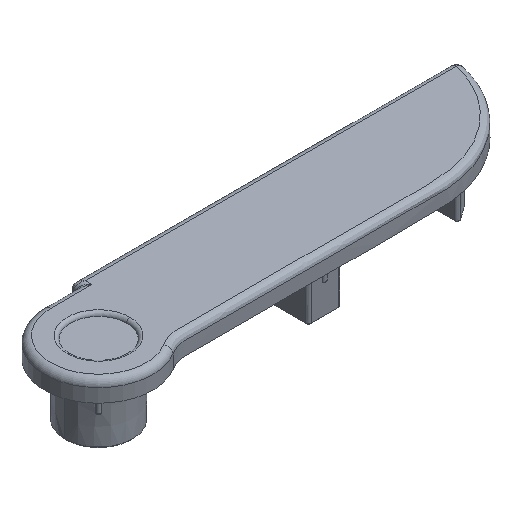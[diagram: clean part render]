
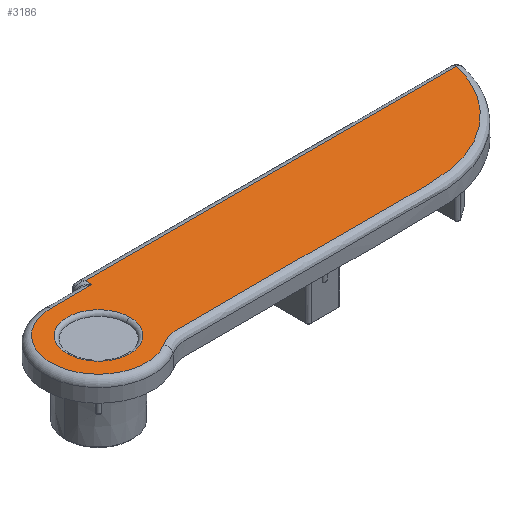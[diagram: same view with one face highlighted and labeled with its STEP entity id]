
A CAD part, isometric view. The second image highlights one B-rep face of the part: STEP entity #3186.
In plain terms, the highlighted planar face has unit normal (0, 0, 1).
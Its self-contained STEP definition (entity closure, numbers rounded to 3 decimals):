
#64 = DIRECTION ( 'NONE',  ( 1., 0., 0. ) ) ;
#92 = CARTESIAN_POINT ( 'NONE',  ( 97.811, 3.091, 0. ) ) ;
#164 = CARTESIAN_POINT ( 'NONE',  ( 99.793, 8.006, 0. ) ) ;
#170 = CARTESIAN_POINT ( 'NONE',  ( 42.63, -5.993, 0. ) ) ;
#199 = CARTESIAN_POINT ( 'NONE',  ( 92.243, -2.447, 0. ) ) ;
#221 = CARTESIAN_POINT ( 'NONE',  ( 39.021, 0.006, 0. ) ) ;
#247 = VERTEX_POINT ( 'NONE', #2734 ) ;
#518 = CARTESIAN_POINT ( 'NONE',  ( 45.049, -5.028, 0. ) ) ;
#530 = CARTESIAN_POINT ( 'NONE',  ( 95.096, -0.217, 0. ) ) ;
#534 = EDGE_CURVE ( 'NONE', #3525, #4199, #4288, .T. ) ;
#679 = CIRCLE ( 'NONE', #1086, 4.642 ) ;
#728 = CARTESIAN_POINT ( 'NONE',  ( 60.944, -4.999, 0. ) ) ;
#730 = CARTESIAN_POINT ( 'NONE',  ( 39.021, 7.006, 0. ) ) ;
#732 = AXIS2_PLACEMENT_3D ( 'NONE', #3532, #1928, #4246 ) ;
#745 = CARTESIAN_POINT ( 'NONE',  ( 42.63, -5.993, 0. ) ) ;
#763 = CARTESIAN_POINT ( 'NONE',  ( 90.193, -3.527, 0. ) ) ;
#820 = CARTESIAN_POINT ( 'NONE',  ( 97.082, 1.997, 0. ) ) ;
#832 = CARTESIAN_POINT ( 'NONE',  ( 80.813, -5.019, 0. ) ) ;
#900 = EDGE_LOOP ( 'NONE', ( #1479, #4083 ) ) ;
#1045 = EDGE_LOOP ( 'NONE', ( #4342, #2130, #2809, #2443, #3438 ) ) ;
#1054 = CARTESIAN_POINT ( 'NONE',  ( 52.996, -5.013, 0. ) ) ;
#1065 = VERTEX_POINT ( 'NONE', #3598 ) ;
#1070 = DIRECTION ( 'NONE',  ( 0., 0., -1. ) ) ;
#1071 = CARTESIAN_POINT ( 'NONE',  ( 47.698, -4.993, 0. ) ) ;
#1081 = CARTESIAN_POINT ( 'NONE',  ( 94.366, -0.894, 0. ) ) ;
#1086 = AXIS2_PLACEMENT_3D ( 'NONE', #221, #1874, #1520 ) ;
#1090 = VERTEX_POINT ( 'NONE', #1296 ) ;
#1159 = CARTESIAN_POINT ( 'NONE',  ( 95.793, 0.496, 0. ) ) ;
#1174 = CARTESIAN_POINT ( 'NONE',  ( 84.785, -4.909, 0. ) ) ;
#1189 = EDGE_CURVE ( 'NONE', #247, #1090, #2269, .T. ) ;
#1202 = LINE ( 'NONE', #3825, #2423 ) ;
#1296 = CARTESIAN_POINT ( 'NONE',  ( 39.021, 7.006, 0. ) ) ;
#1319 = VECTOR ( 'NONE', #3041, 1000. ) ;
#1397 = CARTESIAN_POINT ( 'NONE',  ( 44.083, -5.249, 0. ) ) ;
#1411 = CARTESIAN_POINT ( 'NONE',  ( 68.891, -4.996, 0. ) ) ;
#1429 = CARTESIAN_POINT ( 'NONE',  ( 45.711, -4.987, 0. ) ) ;
#1442 = AXIS2_PLACEMENT_3D ( 'NONE', #1677, #1070, #64 ) ;
#1479 = ORIENTED_EDGE ( 'NONE', *, *, #3728, .T. ) ;
#1501 = CARTESIAN_POINT ( 'NONE',  ( 71.541, -5.004, 0. ) ) ;
#1513 = CARTESIAN_POINT ( 'NONE',  ( 87.401, -4.52, 0. ) ) ;
#1520 = DIRECTION ( 'NONE',  ( 1., 0., 0. ) ) ;
#1549 = PLANE ( 'NONE',  #732 ) ;
#1590 = EDGE_CURVE ( 'NONE', #1090, #3317, #2638, .T. ) ;
#1677 = CARTESIAN_POINT ( 'NONE',  ( 39.021, 0.006, 0. ) ) ;
#1680 = FACE_BOUND ( 'NONE', #900, .T. ) ;
#1743 = CARTESIAN_POINT ( 'NONE',  ( 42.912, -5.823, 0. ) ) ;
#1759 = CARTESIAN_POINT ( 'NONE',  ( 82.799, -5.01, 0. ) ) ;
#1768 = CARTESIAN_POINT ( 'NONE',  ( 43.663, 0.006, 0. ) ) ;
#1769 = DIRECTION ( 'NONE',  ( 1., 0., 0. ) ) ;
#1772 = CARTESIAN_POINT ( 'NONE',  ( 88.667, -4.171, 0. ) ) ;
#1774 = EDGE_CURVE ( 'NONE', #1065, #247, #1202, .T. ) ;
#1780 = AXIS2_PLACEMENT_3D ( 'NONE', #2418, #2100, #1769 ) ;
#1781 = DIRECTION ( 'NONE',  ( -1., 0., 0. ) ) ;
#1794 = EDGE_CURVE ( 'NONE', #4023, #1065, #3058, .T. ) ;
#1848 = CARTESIAN_POINT ( 'NONE',  ( 75.514, -5.014, 0. ) ) ;
#1863 = CARTESIAN_POINT ( 'NONE',  ( 43.782, -5.374, 0. ) ) ;
#1874 = DIRECTION ( 'NONE',  ( 0., 0., -1. ) ) ;
#1928 = DIRECTION ( 'NONE',  ( 0., 0., 1. ) ) ;
#2100 = DIRECTION ( 'NONE',  ( 0., 0., 1. ) ) ;
#2103 = CARTESIAN_POINT ( 'NONE',  ( 91.092, -3.092, 0. ) ) ;
#2130 = ORIENTED_EDGE ( 'NONE', *, *, #1794, .T. ) ;
#2141 = CARTESIAN_POINT ( 'NONE',  ( 39.021, 8.006, 0. ) ) ;
#2172 = CARTESIAN_POINT ( 'NONE',  ( 95.335, 0.017, 0. ) ) ;
#2184 = CARTESIAN_POINT ( 'NONE',  ( 98.715, 4.869, 0. ) ) ;
#2196 = CARTESIAN_POINT ( 'NONE',  ( 96.015, 0.742, 0. ) ) ;
#2269 = LINE ( 'NONE', #730, #1319 ) ;
#2327 = EDGE_CURVE ( 'NONE', #3317, #4023, #3349, .T. ) ;
#2418 = CARTESIAN_POINT ( 'NONE',  ( 39.021, 0.006, 0. ) ) ;
#2420 = CARTESIAN_POINT ( 'NONE',  ( 99.441, 6.723, 0. ) ) ;
#2423 = VECTOR ( 'NONE', #2461, 1000. ) ;
#2443 = ORIENTED_EDGE ( 'NONE', *, *, #1189, .T. ) ;
#2461 = DIRECTION ( 'NONE',  ( 0., -1., 0. ) ) ;
#2508 = CARTESIAN_POINT ( 'NONE',  ( 46.042, -4.987, 0. ) ) ;
#2537 = CARTESIAN_POINT ( 'NONE',  ( 47.036, -4.985, 0. ) ) ;
#2638 = CIRCLE ( 'NONE', #1780, 7. ) ;
#2734 = CARTESIAN_POINT ( 'NONE',  ( 45.021, 7.006, 0. ) ) ;
#2761 = CARTESIAN_POINT ( 'NONE',  ( 92.795, -2.089, 0. ) ) ;
#2775 = CARTESIAN_POINT ( 'NONE',  ( 44.556, -5.114, 0. ) ) ;
#2809 = ORIENTED_EDGE ( 'NONE', *, *, #1774, .T. ) ;
#2843 = CARTESIAN_POINT ( 'NONE',  ( 78.826, -5.018, 0. ) ) ;
#2860 = CARTESIAN_POINT ( 'NONE',  ( 49.685, -5.004, 0. ) ) ;
#3037 = CARTESIAN_POINT ( 'NONE',  ( 99.793, 8.006, 0. ) ) ;
#3041 = DIRECTION ( 'NONE',  ( -1., 0., 0. ) ) ;
#3058 = LINE ( 'NONE', #2141, #3164 ) ;
#3085 = CARTESIAN_POINT ( 'NONE',  ( 98.982, 5.48, 0. ) ) ;
#3094 = CARTESIAN_POINT ( 'NONE',  ( 45.214, -5.013, 0. ) ) ;
#3109 = CARTESIAN_POINT ( 'NONE',  ( 93.856, -1.313, 0. ) ) ;
#3164 = VECTOR ( 'NONE', #1781, 1000. ) ;
#3186 = ADVANCED_FACE ( 'NONE', ( #1680, #3368 ), #1549, .T. ) ;
#3196 = CARTESIAN_POINT ( 'NONE',  ( 83.462, -4.996, 0. ) ) ;
#3317 = VERTEX_POINT ( 'NONE', #170 ) ;
#3349 = B_SPLINE_CURVE_WITH_KNOTS ( 'NONE', 3,
 ( #745, #1743, #3883, #1863, #1397, #2775, #3782, #518, #3094, #1429, #2508, #2537, #1071, #3793, #2860, #1054, #3425, #728, #3871, #1411, #1501, #1848, #4205, #2843, #3770, #832, #4220, #1759, #3196, #1174, #3527, #1513, #1772, #763, #4118, #2103, #4138, #199, #2761, #3109, #1081, #530, #2172, #1159, #2196, #820, #92, #2184, #3085, #2420, #3446, #164 ),
 .UNSPECIFIED., .F., .F.,
 ( 4, 2, 2, 2, 2, 2, 2, 2, 2, 2, 2, 2, 2, 2, 2, 2, 2, 2, 2, 2, 2, 2, 2, 2, 2, 4 ),
 ( 0., 0.001, 0.002, 0.002, 0.003, 0.004, 0.006, 0.008, 0.016, 0.023, 0.031, 0.035, 0.037, 0.039, 0.041, 0.043, 0.047, 0.048, 0.049, 0.051, 0.053, 0.054, 0.055, 0.059, 0.061, 0.063 ),
 .UNSPECIFIED. ) ;
#3358 = CARTESIAN_POINT ( 'NONE',  ( 34.38, 0.006, 0. ) ) ;
#3368 = FACE_OUTER_BOUND ( 'NONE', #1045, .T. ) ;
#3425 = CARTESIAN_POINT ( 'NONE',  ( 55.646, -5.008, 0. ) ) ;
#3438 = ORIENTED_EDGE ( 'NONE', *, *, #1590, .T. ) ;
#3446 = CARTESIAN_POINT ( 'NONE',  ( 99.635, 7.358, 0. ) ) ;
#3525 = VERTEX_POINT ( 'NONE', #3358 ) ;
#3527 = CARTESIAN_POINT ( 'NONE',  ( 85.448, -4.837, 0. ) ) ;
#3532 = CARTESIAN_POINT ( 'NONE',  ( 39.021, 0.006, 0. ) ) ;
#3598 = CARTESIAN_POINT ( 'NONE',  ( 45.021, 8.006, 0. ) ) ;
#3728 = EDGE_CURVE ( 'NONE', #4199, #3525, #679, .T. ) ;
#3770 = CARTESIAN_POINT ( 'NONE',  ( 79.488, -5.019, 0. ) ) ;
#3782 = CARTESIAN_POINT ( 'NONE',  ( 44.718, -5.079, 0. ) ) ;
#3793 = CARTESIAN_POINT ( 'NONE',  ( 49.023, -5.002, 0. ) ) ;
#3825 = CARTESIAN_POINT ( 'NONE',  ( 45.021, 0.006, 0. ) ) ;
#3871 = CARTESIAN_POINT ( 'NONE',  ( 63.593, -4.993, 0. ) ) ;
#3883 = CARTESIAN_POINT ( 'NONE',  ( 43.197, -5.661, 0. ) ) ;
#4023 = VERTEX_POINT ( 'NONE', #3037 ) ;
#4083 = ORIENTED_EDGE ( 'NONE', *, *, #534, .T. ) ;
#4118 = CARTESIAN_POINT ( 'NONE',  ( 90.496, -3.387, 0. ) ) ;
#4138 = CARTESIAN_POINT ( 'NONE',  ( 91.384, -2.937, 0. ) ) ;
#4199 = VERTEX_POINT ( 'NONE', #1768 ) ;
#4205 = CARTESIAN_POINT ( 'NONE',  ( 76.839, -5.016, 0. ) ) ;
#4220 = CARTESIAN_POINT ( 'NONE',  ( 81.475, -5.021, 0. ) ) ;
#4246 = DIRECTION ( 'NONE',  ( 1., 0., 0. ) ) ;
#4288 = CIRCLE ( 'NONE', #1442, 4.642 ) ;
#4342 = ORIENTED_EDGE ( 'NONE', *, *, #2327, .T. ) ;
